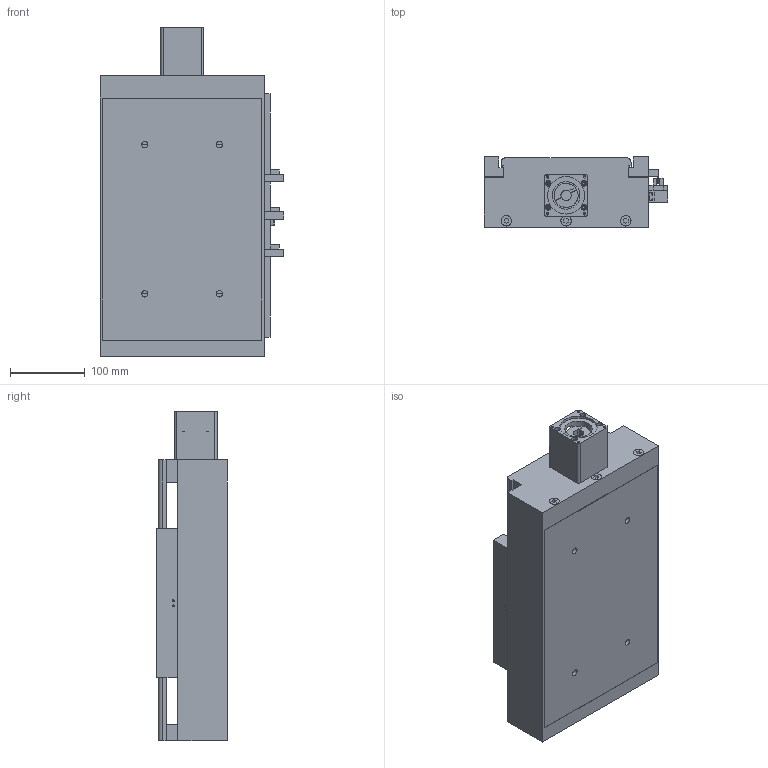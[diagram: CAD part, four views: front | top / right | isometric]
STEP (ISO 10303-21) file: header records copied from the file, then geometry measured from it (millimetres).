
FILE_DESCRIPTION((''),'2;1');
FILE_NAME('E:\libraries\UIA actuator library 2016\standard actuator\UIA220R20NDC\UIA220R20NDC ball screw 25\UIA220R20NDC-_ _ _-R25_ _ stp file, 01May16\UIA220R20NDC-100-R25_ _-M60-P13-C10-S.stp','2016-04-29T17:16:10',('h029'),(''),'Autodesk Inventor 11','Autodesk Inventor 11','');
FILE_SCHEMA(('AUTOMOTIVE_DESIGN { 1 0 10303 214 1 1 1 1 }'));
Length unit declared in the file: millimetre
Products named in the file (10): UIA220R20NDC-100-R25_ _; UIA220R20NDC-body; 41-100 0010 CARRIAGE; sensor rail; Sensor Switch; motor mount M60; SOH-32C; SOH-32C-3; SOH-32C-1; SOH-32C-2
Assembly tree (9 placements, depth 3):
  UIA220R20NDC-100-R25_ _
    UIA220R20NDC-body
    41-100 0010 CARRIAGE
    sensor rail
    Sensor Switch
    motor mount M60
    SOH-32C
      SOH-32C-3
      SOH-32C-1
      SOH-32C-2
Bounding box: 246.5 x 96 x 441 mm (x, y, z)
Volume: 3481092.7 mm3; surface area: 694743.6 mm2
Topology: 8 solids, 8 shells, 499 faces, 1341 edges, 881 vertices
Faces by surface type: plane 342, bspline 109, cylinder 46, cone 2
Full cylindrical faces by diameter (mm): 3.242 x2, 4.5 x2, 7 x4, 7.5 x2, 13.8 x3, 14 x6, 17 x1, 32 x3, 37 x1, 50.3 x1, 50.5 x1
Entity records: 16306 total; most frequent: CARTESIAN_POINT 4537, ORIENTED_EDGE 2296, DIRECTION 2245, EDGE_CURVE 1148, VECTOR 849, LINE 849, VERTEX_POINT 807, EDGE_LOOP 709
